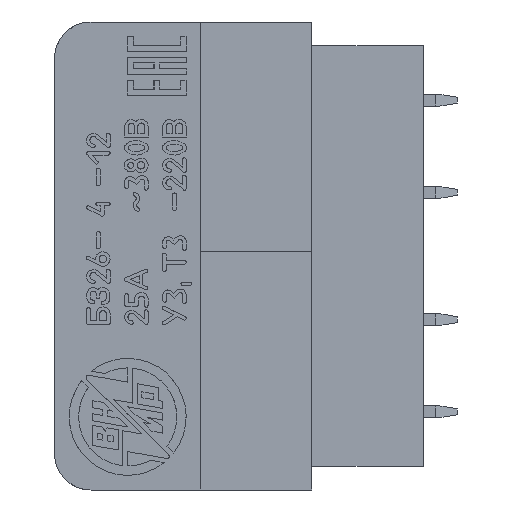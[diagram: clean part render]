
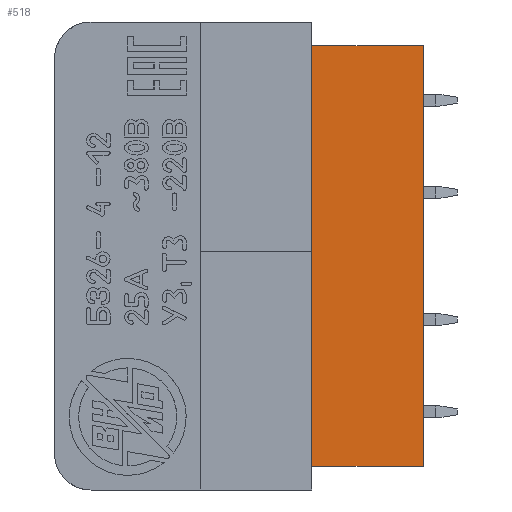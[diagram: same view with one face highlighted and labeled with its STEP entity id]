
A CAD part, left-side view. The second image highlights one B-rep face of the part: STEP entity #518.
In plain terms, the highlighted planar face has unit normal (-1, 0, 0).
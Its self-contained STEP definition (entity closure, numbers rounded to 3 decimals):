
#518=ADVANCED_FACE('',(#34855),#34857,.T.);
#34855=FACE_BOUND('',#34856,.T.);
#34856=EDGE_LOOP('',(#71547,#71548,#71549,#71550,#71551,#71552,#71553,#71554,#71555,
#71556,#71557,#71558));
#34857=PLANE('',#34858);
#34858=AXIS2_PLACEMENT_3D('',#34859,#34860,#34861);
#34859=CARTESIAN_POINT('',(-29.1,-8.8,27.14));
#34860=DIRECTION('',(-1.,0.,0.));
#34861=DIRECTION('',(0.,0.,-1.));
#71547=ORIENTED_EDGE('',*,*,#92244,.T.);
#71548=ORIENTED_EDGE('',*,*,#92245,.T.);
#71549=ORIENTED_EDGE('',*,*,#92246,.T.);
#71550=ORIENTED_EDGE('',*,*,#92247,.T.);
#71551=ORIENTED_EDGE('',*,*,#92248,.T.);
#71552=ORIENTED_EDGE('',*,*,#92249,.T.);
#71553=ORIENTED_EDGE('',*,*,#92170,.F.);
#71554=ORIENTED_EDGE('',*,*,#92241,.F.);
#71555=ORIENTED_EDGE('',*,*,#92250,.F.);
#71556=ORIENTED_EDGE('',*,*,#92251,.T.);
#71557=ORIENTED_EDGE('',*,*,#92252,.T.);
#71558=ORIENTED_EDGE('',*,*,#92253,.T.);
#92170=EDGE_CURVE('',#102583,#102585,#102586,.T.);
#92241=EDGE_CURVE('',#102718,#102583,#102719,.T.);
#92244=EDGE_CURVE('',#102723,#102724,#102725,.T.);
#92245=EDGE_CURVE('',#102724,#102726,#102727,.T.);
#92246=EDGE_CURVE('',#102726,#102728,#102729,.F.);
#92247=EDGE_CURVE('',#102728,#102730,#102731,.T.);
#92248=EDGE_CURVE('',#102730,#102732,#102733,.T.);
#92249=EDGE_CURVE('',#102732,#102585,#102734,.T.);
#92250=EDGE_CURVE('',#102735,#102718,#102736,.T.);
#92251=EDGE_CURVE('',#102735,#102737,#102738,.T.);
#92252=EDGE_CURVE('',#102737,#102739,#102740,.F.);
#92253=EDGE_CURVE('',#102739,#102723,#102741,.T.);
#102583=VERTEX_POINT('',#119948);
#102585=VERTEX_POINT('',#119952);
#102586=LINE('',#119953,#119954);
#102718=VERTEX_POINT('',#120227);
#102719=LINE('',#120228,#120229);
#102723=VERTEX_POINT('',#120238);
#102724=VERTEX_POINT('',#120239);
#102725=LINE('',#120240,#120241);
#102726=VERTEX_POINT('',#120243);
#102727=LINE('',#120244,#120245);
#102728=VERTEX_POINT('',#120247);
#102729=LINE('',#120248,#120249);
#102730=VERTEX_POINT('',#120251);
#102731=LINE('',#120252,#120253);
#102732=VERTEX_POINT('',#120255);
#102733=LINE('',#120256,#120257);
#102734=LINE('',#120259,#120260);
#102735=VERTEX_POINT('',#120262);
#102736=LINE('',#120263,#120264);
#102737=VERTEX_POINT('',#120266);
#102738=LINE('',#120267,#120268);
#102739=VERTEX_POINT('',#120270);
#102740=LINE('',#120271,#120272);
#102741=LINE('',#120274,#120275);
#119948=CARTESIAN_POINT('',(-29.1,-16.4,27.14));
#119952=CARTESIAN_POINT('',(-29.1,-16.4,-1.61));
#119953=CARTESIAN_POINT('',(-29.1,-16.4,27.14));
#119954=VECTOR('',#119955,1.);
#119955=DIRECTION('',(0.,0.,-1.));
#120227=CARTESIAN_POINT('',(-29.1,-8.8,27.14));
#120228=CARTESIAN_POINT('',(-29.1,-8.8,27.14));
#120229=VECTOR('',#120230,1.);
#120230=DIRECTION('',(0.,-1.,0.));
#120238=CARTESIAN_POINT('',(-29.1,-8.8,21.265));
#120239=CARTESIAN_POINT('',(-29.1,-8.8,20.265));
#120240=CARTESIAN_POINT('',(-29.1,-8.8,21.265));
#120241=VECTOR('',#120242,1.);
#120242=DIRECTION('',(0.,0.,-1.));
#120243=CARTESIAN_POINT('',(-29.1,-3.2,20.265));
#120244=CARTESIAN_POINT('',(-29.1,-8.8,20.265));
#120245=VECTOR('',#120246,1.);
#120246=DIRECTION('',(0.,1.,0.));
#120247=CARTESIAN_POINT('',(-29.1,-3.2,14.065));
#120248=CARTESIAN_POINT('',(-29.1,-3.2,14.065));
#120249=VECTOR('',#120250,1.);
#120250=DIRECTION('',(0.,0.,1.));
#120251=CARTESIAN_POINT('',(-29.1,-8.8,14.065));
#120252=CARTESIAN_POINT('',(-29.1,-3.2,14.065));
#120253=VECTOR('',#120254,1.);
#120254=DIRECTION('',(0.,-1.,0.));
#120255=CARTESIAN_POINT('',(-29.1,-8.8,-1.61));
#120256=CARTESIAN_POINT('',(-29.1,-8.8,14.065));
#120257=VECTOR('',#120258,1.);
#120258=DIRECTION('',(0.,0.,-1.));
#120259=CARTESIAN_POINT('',(-29.1,-8.8,-1.61));
#120260=VECTOR('',#120261,1.);
#120261=DIRECTION('',(0.,-1.,0.));
#120262=CARTESIAN_POINT('',(-29.1,-8.8,27.765));
#120263=CARTESIAN_POINT('',(-29.1,-8.8,27.765));
#120264=VECTOR('',#120265,1.);
#120265=DIRECTION('',(0.,0.,-1.));
#120266=CARTESIAN_POINT('',(-29.1,-3.2,27.765));
#120267=CARTESIAN_POINT('',(-29.1,-8.8,27.765));
#120268=VECTOR('',#120269,1.);
#120269=DIRECTION('',(0.,1.,0.));
#120270=CARTESIAN_POINT('',(-29.1,-3.2,21.265));
#120271=CARTESIAN_POINT('',(-29.1,-3.2,21.265));
#120272=VECTOR('',#120273,1.);
#120273=DIRECTION('',(0.,0.,1.));
#120274=CARTESIAN_POINT('',(-29.1,-3.2,21.265));
#120275=VECTOR('',#120276,1.);
#120276=DIRECTION('',(0.,-1.,0.));
